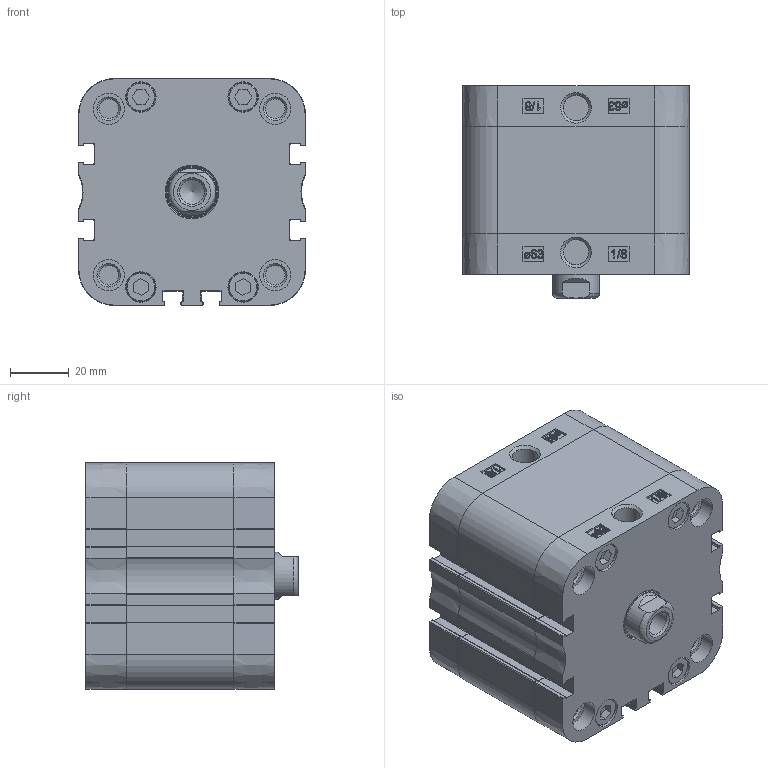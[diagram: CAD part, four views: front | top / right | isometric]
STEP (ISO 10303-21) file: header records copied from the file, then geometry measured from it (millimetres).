
FILE_DESCRIPTION(/* description */ ('Unknown'),/* implementation_level */ '2;1');
FILE_NAME(/* name */ 'ZEN 63_15',/* time_stamp */ '2024-09-11T08:23:13+02:00',/* author */ ('Unknown'),/* organization */ ('Unknown'),/* preprocessor_version */ 'ST-DEVELOPER v16.7',/* originating_system */ 'Solid Edge',/* authorisation */ 'Unknown');
FILE_SCHEMA (('AUTOMOTIVE_DESIGN {1 0 10303 214 3 1 1}'));
Length unit declared in the file: millimetre
Products named in the file (5): ZEN 63_15; Kit_2; Kit_1; Kolbenstange; Profilrohr
Assembly tree (4 placements, depth 2):
  ZEN 63_15
    Kit_2
    Kit_1
    Kolbenstange
    Profilrohr
Bounding box: 77 x 72 x 77 mm (x, y, z)
Volume: 303575.7 mm3; surface area: 77553.8 mm2
Topology: 4 solids, 4 shells, 731 faces, 1953 edges, 1295 vertices
Faces by surface type: plane 345, cylinder 210, bspline 124, cone 33, torus 19
Full cylindrical faces by diameter (mm): 6.647 x8, 8.37 x1, 8.376 x1, 8.566 x2, 9.8 x8, 10.3 x8, 10.5 x8, 12 x1, 16 x1, 16.54 x1, 17.7 x1, 18 x1, 20.5 x1, 63 x2
Entity records: 27560 total; most frequent: CARTESIAN_POINT 5767, ORIENTED_EDGE 3686, DIRECTION 3278, EDGE_CURVE 1843, VERTEX_POINT 1272, AXIS2_PLACEMENT_3D 1095, LINE 1088, VECTOR 1088
